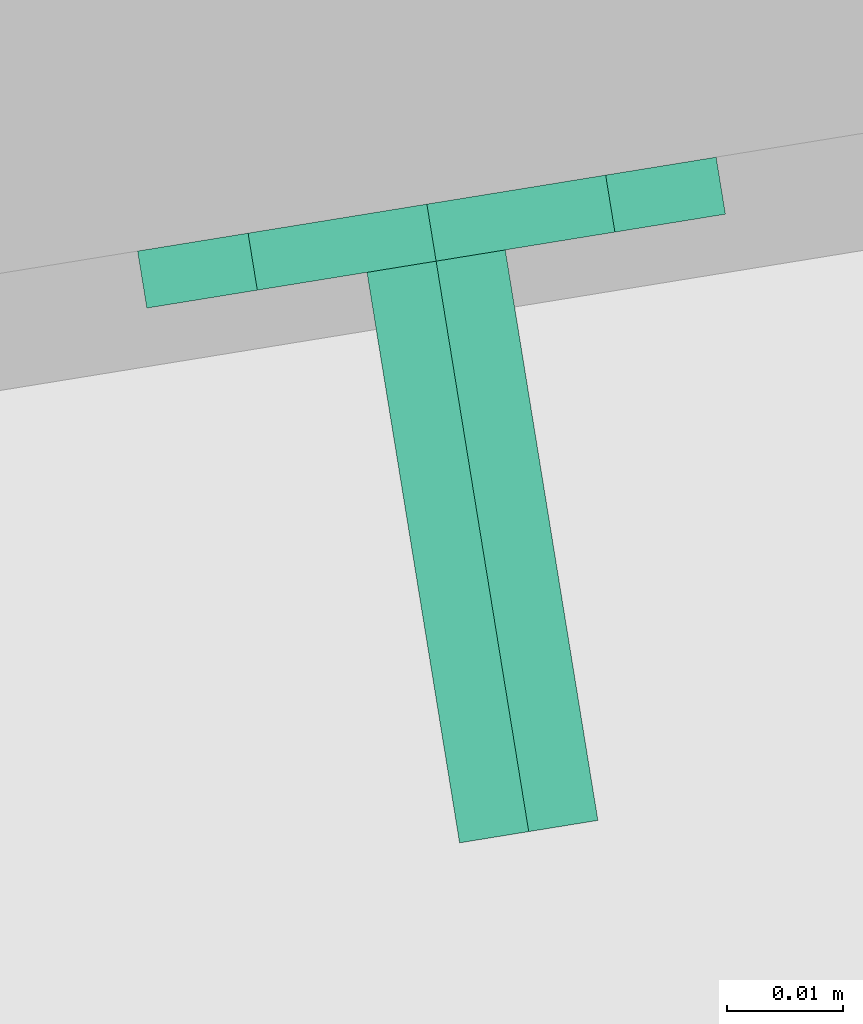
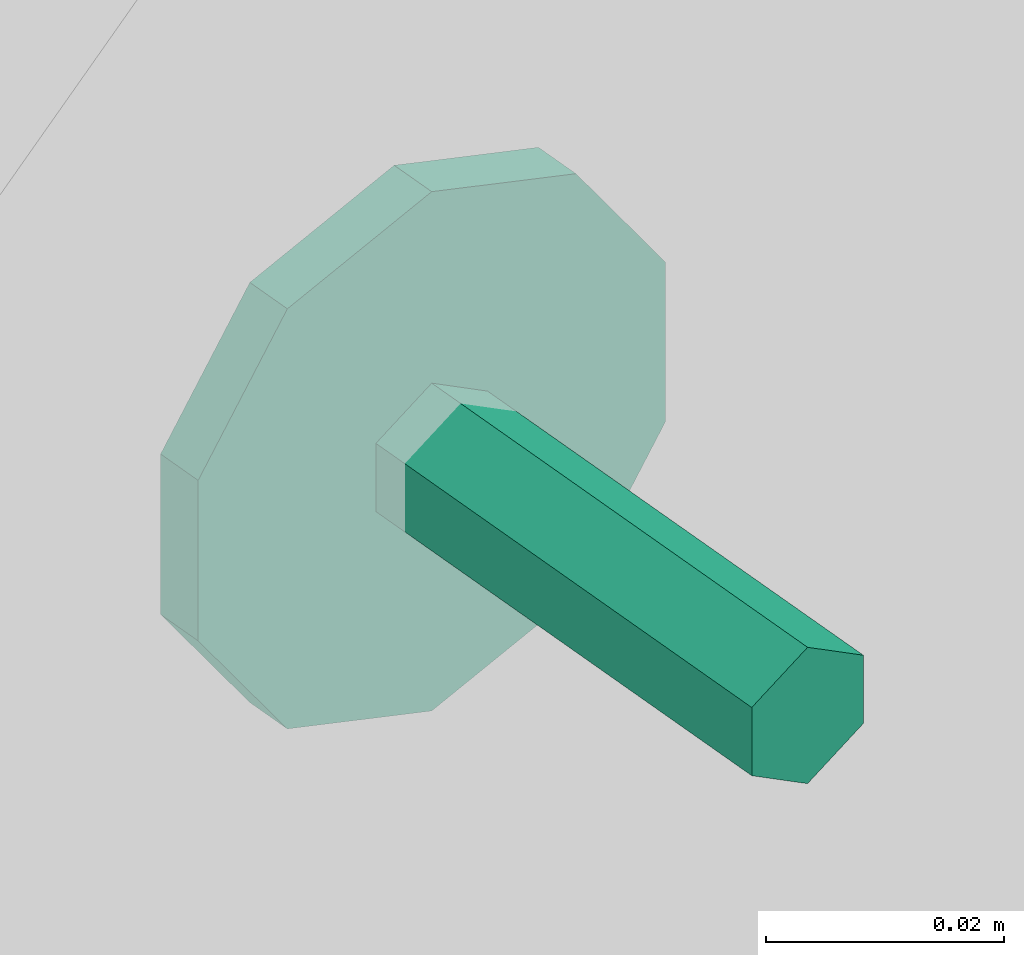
# One storey, part 36 of 38: 1 flow terminal.
"""IFC2X3 building model written with IfcOpenShell, lengths in millimetres."""

from ifc_helpers import new_model, entity, si_unit, converted_unit, derived_unit, direction, frame, origin, origin_with_axes, place, context, subcontext, project, spatial, faceted_brep, source, transform, mapped, material, type_object, element, save


model = new_model("IFC2X3")

# Units and contexts
model_context = context("Model", 3, precision=0.01, world=origin(), true_north=direction((6.12323399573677e-17, 1.0)))
plan_context = context("Plan", 3, precision=1e-05, world=origin_with_axes())
body_context = subcontext(model_context, "Body", "Model", "MODEL_VIEW")
ifc_project = project(units=[converted_unit("PLANEANGLEUNIT", "DEGREE", entity("IfcPositiveLengthMeasure", 0.0174532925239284), si_unit("PLANEANGLEUNIT", "RADIAN"), dimensions=[0, 0, 0, 0, 0, 0, 0]), si_unit("AREAUNIT", "SQUARE_METRE"), si_unit("LENGTHUNIT", "METRE", prefix="MILLI"), si_unit("MASSUNIT", "GRAM", prefix="KILO"), si_unit("POWERUNIT", "WATT"), si_unit("PRESSUREUNIT", "PASCAL", prefix="KILO"), si_unit("FORCEUNIT", "NEWTON", prefix="KILO"), si_unit("ELECTRICVOLTAGEUNIT", "VOLT"), si_unit("ELECTRICCURRENTUNIT", "AMPERE"), si_unit("THERMODYNAMICTEMPERATUREUNIT", "DEGREE_CELSIUS"), si_unit("TIMEUNIT", "SECOND"), si_unit("VOLUMEUNIT", "CUBIC_METRE"), derived_unit("LINEARVELOCITYUNIT", [(si_unit("LENGTHUNIT", "METRE"), 1), (si_unit("TIMEUNIT", "SECOND"), -1)]), derived_unit("VOLUMETRICFLOWRATEUNIT", [(si_unit("VOLUMEUNIT", "CUBIC_METRE"), 1), (si_unit("TIMEUNIT", "SECOND"), -1)]), derived_unit("THERMALTRANSMITTANCEUNIT", [(si_unit("POWERUNIT", "WATT"), 1), (si_unit("THERMODYNAMICTEMPERATUREUNIT", "KELVIN"), -1), (si_unit("AREAUNIT", "SQUARE_METRE"), -1)]), derived_unit("SOUNDPRESSUREUNIT", [(si_unit("PRESSUREUNIT", "PASCAL"), 1)])], contexts=[model_context, plan_context])

# Site, building, storey
site_placement = place(None, frame((-0.00071070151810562, 0.00438415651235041, 0.0), z_axis=(0.0, 0.0, 1.0), x_axis=(-0.160236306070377, 0.987078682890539, 0.0)))
site = spatial("IfcSite", under=ifc_project, at=site_placement, Name="Default", CompositionType="ELEMENT")
building_placement = place(site_placement, origin_with_axes())
building = spatial("IfcBuilding", under=site, at=building_placement, Name="TOO", CompositionType="ELEMENT")
storey_placement = place(building_placement, frame((0.0, 0.0, 50999.9999999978), z_axis=(0.0, 0.0, 1.0), x_axis=(1.0, 0.0, 0.0)))
storey = spatial("IfcBuildingStorey", under=building, at=storey_placement, Name="Nivå D-H01", CompositionType="ELEMENT", Elevation=50999.9999999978)

# Flow terminal
ifc_material = material(Name="<Unnamed>")
distribution_element_type = type_object("IfcDistributionElementType", Name="A274 - Kleshenger:A274 - Kleshenger", material=ifc_material)
shared_shape = source(origin(), body_context, "Body", "Brep", [
    faceted_brep([(0.0, 0.0, 0.0), (-15.6706286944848, 0.0, -21.5687700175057), (-20.5131192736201, 0.0, -14.9036535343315), (-25.3556098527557, 0.0, -8.23853705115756), (-25.3556098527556, 0.0, 0.0), (-10.541203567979, 0.0, -23.2354212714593), (-5.27060178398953, 0.0, -24.9479436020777), (0.0, 0.0, -26.6604659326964), (-25.3556098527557, 0.0, 8.23853705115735), (-20.5131192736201, 0.0, 14.9036535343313), (-15.6706286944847, 0.0, 21.5687700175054), (-7.83531434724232, 0.0, 24.1146179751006), (0.0, 0.0, 26.6604659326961), (5.27060153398, 0.0, 24.9479436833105), (7.83531434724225, 0.0, -24.1146179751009), (15.6706286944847, 0.0, -21.5687700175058), (20.51311927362, 0.0, -14.9036535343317), (25.3556098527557, 0.0, -8.23853705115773), (10.5412030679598, 0.0, 23.235421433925), (15.6706286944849, 0.0, 21.5687700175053), (20.5131192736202, 0.0, 14.9036535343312), (25.3556098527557, 0.0, 8.23853705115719), (25.3556098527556, 0.0, 0.0), (-6.06217782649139, -55.0, -3.50000000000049), (0.0, -55.0, -7.0), (0.0, -55.0, 0.0), (-6.06217782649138, -55.0, 3.49999999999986), (6.06217782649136, -55.0, -3.50000000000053), (6.0621778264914, -55.0, 3.49999999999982), (0.0, -55.0, 7.0), (0.0, -5.0, 7.0), (-6.0621778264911, -5.0, 3.49999999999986), (-6.06217782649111, -5.0, -3.50000000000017), (0.0, -5.0, -7.0), (6.06217782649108, -5.0, -3.5000000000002), (6.06217782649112, -5.0, 3.49999999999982), (-15.6706286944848, -5.0, -21.5687700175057), (-7.83531434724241, -5.0, -24.1146179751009), (0.0, -5.0, -26.6604659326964), (5.27060153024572, -5.0, -24.9479436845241), (10.5412030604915, -5.0, -23.235421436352), (15.6706286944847, -5.0, -21.5687700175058), (-20.5131192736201, -5.0, -14.9036535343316), (-25.3556098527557, -5.0, -8.23853705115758), (-25.3556098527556, -5.0, 0.0), (-25.3556098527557, -5.0, 8.23853705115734), (-20.5131192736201, -5.0, 14.9036535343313), (-15.6706286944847, -5.0, 21.5687700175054), (-10.5412032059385, -5.0, 23.2354213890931), (-5.27060160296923, -5.0, 24.9479436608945), (0.0, -5.0, 26.6604659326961), (7.83531434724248, -5.0, 24.1146179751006), (15.6706286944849, -5.0, 21.5687700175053), (25.3556098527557, -5.0, 8.23853705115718), (20.5131192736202, -5.0, 14.9036535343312), (20.5131192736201, -5.0, -14.9036535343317), (25.3556098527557, -5.0, -8.23853705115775), (25.3556098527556, -5.0, 0.0)], [[[0, 1, 2]], [[0, 2, 3]], [[0, 3, 4]], [[0, 5, 1]], [[0, 6, 5]], [[0, 7, 6]], [[0, 4, 8]], [[0, 8, 9]], [[0, 9, 10]], [[0, 10, 11]], [[0, 11, 12]], [[0, 12, 13]], [[0, 14, 7]], [[0, 15, 14]], [[0, 16, 15]], [[0, 17, 16]], [[0, 13, 18]], [[0, 18, 19]], [[0, 19, 20]], [[0, 20, 21]], [[0, 21, 22]], [[0, 22, 17]], [[23, 24, 25]], [[25, 26, 23]], [[24, 27, 25]], [[28, 25, 27]], [[25, 28, 29]], [[25, 29, 26]], [[30, 31, 26, 29]], [[31, 32, 23, 26]], [[32, 33, 24, 23]], [[33, 34, 27, 24]], [[34, 35, 28, 27]], [[35, 30, 29, 28]], [[33, 36, 37]], [[32, 36, 33]], [[33, 37, 38]], [[33, 38, 39]], [[33, 39, 40]], [[33, 40, 41]], [[33, 41, 34]], [[32, 42, 36]], [[32, 43, 42]], [[32, 44, 43]], [[32, 45, 44]], [[31, 45, 32]], [[31, 46, 45]], [[31, 47, 46]], [[47, 31, 30]], [[30, 48, 47]], [[30, 49, 48]], [[30, 50, 49]], [[30, 51, 50]], [[30, 52, 51]], [[52, 30, 35]], [[53, 35, 34]], [[35, 53, 54]], [[35, 54, 52]], [[34, 41, 55]], [[34, 55, 56]], [[34, 56, 57]], [[34, 57, 53]], [[48, 49, 50, 12, 11, 10, 47]], [[46, 47, 10, 9, 8, 45]], [[7, 38, 37, 36, 1, 5, 6]], [[43, 44, 45, 8, 4, 3]], [[42, 43, 3, 2, 1, 36]], [[40, 39, 38, 7, 14, 15, 41]], [[55, 41, 15, 16, 17, 56]], [[12, 50, 51, 52, 19, 18, 13]], [[53, 57, 56, 17, 22, 21]], [[54, 53, 21, 20, 19, 52]]]),
])
flow_terminal_placement = place(storey_placement, frame((779792.619644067, -590782.481738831, 1100.0), z_axis=(0.0, 0.0, 1.0), x_axis=(0.0, -1.0, 0.0)))
element("IfcFlowTerminal", 1, at=flow_terminal_placement, inside=storey, type_object=distribution_element_type, material=ifc_material, Name="A274 - Kleshenger:A274 - Kleshenger", ObjectType="A274 - Kleshenger:A274 - Kleshenger", context=body_context, shape_type="MappedRepresentation", body=[
    mapped(shared_shape, transform((0.0, 0.0, 0.0), scale=1.0)),
])

save(model, "model.ifc")
